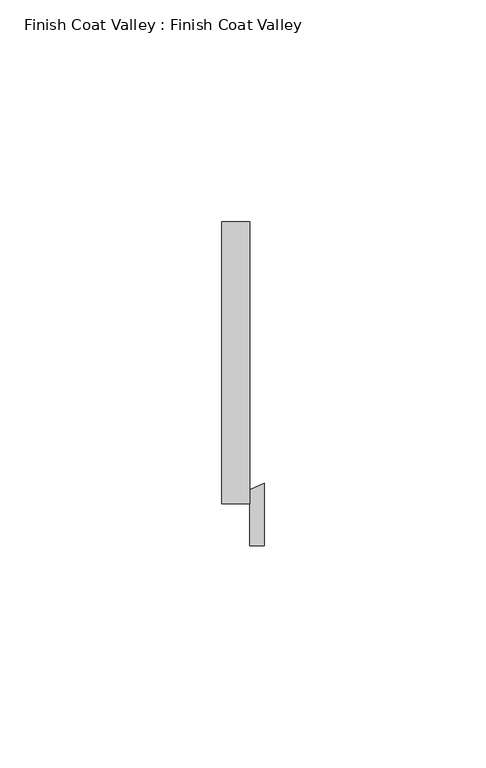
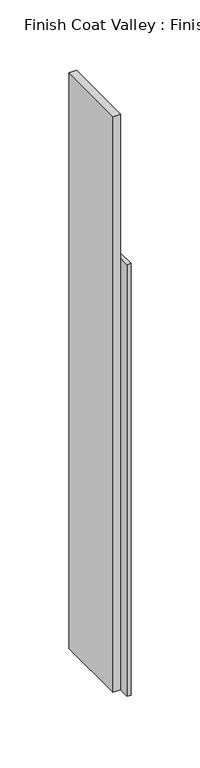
"""IFC4 building model written with IfcOpenShell, lengths in millimetres: proxy geometry, Finish Coat Valley : Finish Coat Valley."""

import ifcopenshell
import ifcopenshell.guid

model = None  # the IFC model being written
_history = None  # IfcOwnerHistory: only IFC2X3 demands one
_inside = {}  # id of a spatial element -> (the spatial element, [elements in it])
_under = {}  # id of a project, library or spatial element -> (it, [spatial elements below it])
_declared = {}  # id of a project -> (the project, [libraries it declares])
_typed = {}  # id of a type object -> (the type object, [elements of that type])
_made_of = {}  # id of a material, layer set ... -> (it, [elements and type objects made of it])


def new_model(schema):
    """Start an empty IFC model of exactly this schema.

    Asked for "IFC4X3", IfcOpenShell would pick the latest addendum, in which some entities
    have other attributes; the version numbers below select the first issue.
    IFC2X3 requires an IfcOwnerHistory on every rooted entity: one is made here for all.
    """
    global model, _history
    if schema == "IFC4X3":
        model = ifcopenshell.file(schema_version=(4, 3, 0, 0))
    else:
        model = ifcopenshell.file(schema=schema)
    _inside.clear()
    _under.clear()
    _declared.clear()
    _typed.clear()
    _made_of.clear()
    _history = None
    if model.schema == "IFC2X3":
        org = make("IfcOrganization", Name="unknown")
        user = make(
            "IfcPersonAndOrganization",
            ThePerson=make("IfcPerson", FamilyName="unknown"),
            TheOrganization=org,
        )
        app = make(
            "IfcApplication",
            ApplicationDeveloper=org,
            Version="unknown",
            ApplicationFullName="unknown",
            ApplicationIdentifier="unknown",
        )
        _history = make(
            "IfcOwnerHistory",
            OwningUser=user,
            OwningApplication=app,
            ChangeAction="ADDED",
            CreationDate=0,
        )
    return model


def make(cls, **values):
    """One entity of the class cls with the attributes given. An attribute that is None is left unset."""
    return model.create_entity(
        cls, **{name: value for name, value in values.items() if value is not None}
    )


def rooted(cls, **values):
    """An entity with a GlobalId (a new one), such as an element, a storey or a relation."""
    return make(cls, GlobalId=ifcopenshell.guid.new(), OwnerHistory=_history, **values)


def si_unit(unit_type, name, prefix=None):
    """IfcSIUnit, for example si_unit("LENGTHUNIT", "METRE", prefix="MILLI")."""
    return make("IfcSIUnit", UnitType=unit_type, Prefix=prefix, Name=name)


def assignment(units):
    """IfcUnitAssignment: the units of a project."""
    return None if units is None else make("IfcUnitAssignment", Units=units)


def point(xyz):
    """IfcCartesianPoint."""
    return None if xyz is None else make("IfcCartesianPoint", Coordinates=xyz)


def direction(xyz):
    """IfcDirection."""
    return None if xyz is None else make("IfcDirection", DirectionRatios=xyz)


def frame(location, z_axis=None, x_axis=None):
    """IfcAxis2Placement3D, a coordinate frame: its origin and axes. An axis left out is left unset."""
    return make(
        "IfcAxis2Placement3D",
        Location=point(location),
        Axis=direction(z_axis),
        RefDirection=direction(x_axis),
    )


def frame_2d(location, x_axis=None):
    """IfcAxis2Placement2D, a coordinate frame in the plane: its origin and x axis."""
    return make(
        "IfcAxis2Placement2D", Location=point(location), RefDirection=direction(x_axis)
    )


def origin():
    """The frame at (0, 0, 0) with its axes left unset."""
    return frame((0.0, 0.0, 0.0))


def origin_with_axes():
    """The frame at (0, 0, 0) with the z axis (0, 0, 1) and the x axis (1, 0, 0) written out."""
    return frame((0.0, 0.0, 0.0), z_axis=(0.0, 0.0, 1.0), x_axis=(1.0, 0.0, 0.0))


def place(relative_to, where):
    """IfcLocalPlacement: puts the frame where relative to a parent placement (None: the world)."""
    return make(
        "IfcLocalPlacement", PlacementRelTo=relative_to, RelativePlacement=where
    )


def context(
    kind, dimensions, precision=None, world=None, true_north=None, identifier=None
):
    """IfcGeometricRepresentationContext, for example the 3D "Model" context."""
    return make(
        "IfcGeometricRepresentationContext",
        ContextIdentifier=identifier,
        ContextType=kind,
        CoordinateSpaceDimension=dimensions,
        Precision=precision,
        WorldCoordinateSystem=world,
        TrueNorth=true_north,
    )


def project(units=None, contexts=None):
    """IfcProject with its units and contexts."""
    return rooted(
        "IfcProject",
        Name="project",
        RepresentationContexts=contexts,
        UnitsInContext=assignment(units),
    )


def spatial(cls, under=None, at=None, **own):
    """A site, building, storey or space (cls), placed at a placement, below another one or the project."""
    s = rooted(cls, ObjectPlacement=at, **own)
    if under is not None:
        _under.setdefault(under.id(), (under, []))[1].append(s)
    return s


def polyline(points):
    """IfcPolyline through the points."""
    return make("IfcPolyline", Points=[point(p) for p in points])


def circle_curve(where, radius):
    """IfcCircle in the frame where."""
    return make("IfcCircle", Position=where, Radius=radius)


def trimmed(basis, trim1, trim2, sense, master):
    """IfcTrimmedCurve: the piece of a basis curve between two trims."""
    return make(
        "IfcTrimmedCurve",
        BasisCurve=basis,
        Trim1=trim1,
        Trim2=trim2,
        SenseAgreement=sense,
        MasterRepresentation=master,
    )


def segment(curve, same_sense, transition):
    """IfcCompositeCurveSegment."""
    return make(
        "IfcCompositeCurveSegment",
        Transition=transition,
        SameSense=same_sense,
        ParentCurve=curve,
    )


def composite_curve(segments, self_intersect=None):
    """IfcCompositeCurve: segments joined end to end."""
    return make("IfcCompositeCurve", Segments=segments, SelfIntersect=self_intersect)


def outline(outer, holes=None, kind="AREA"):
    """IfcArbitraryClosedProfileDef: a profile drawn as a closed curve; with holes, ...WithVoids."""
    if holes is None:
        return make("IfcArbitraryClosedProfileDef", ProfileType=kind, OuterCurve=outer)
    return make(
        "IfcArbitraryProfileDefWithVoids",
        ProfileType=kind,
        OuterCurve=outer,
        InnerCurves=holes,
    )


def extrude(swept, where, along, depth):
    """IfcExtrudedAreaSolid: the profile swept, set in the frame where, extruded along a direction by depth."""
    return make(
        "IfcExtrudedAreaSolid",
        SweptArea=swept,
        Position=where,
        ExtrudedDirection=direction(along),
        Depth=depth,
    )


def shape(context_of_items, identifier, shape_type, items):
    """IfcShapeRepresentation: the items that make up one representation, for example the "Body"."""
    return make(
        "IfcShapeRepresentation",
        ContextOfItems=context_of_items,
        RepresentationIdentifier=identifier,
        RepresentationType=shape_type,
        Items=items,
    )


def source(mapping_origin, context_of_items, identifier, shape_type, items):
    """IfcRepresentationMap: a shape defined once, which mapped items show again and again."""
    return make(
        "IfcRepresentationMap",
        MappingOrigin=mapping_origin,
        MappedRepresentation=shape(context_of_items, identifier, shape_type, items),
    )


def transform(
    local_origin,
    x_axis=None,
    y_axis=None,
    z_axis=None,
    scale=None,
    scale2=None,
    scale3=None,
    uniform=True,
):
    """IfcCartesianTransformationOperator3D, or its non-uniform kind. x_axis, y_axis, z_axis: its Axis1, 2, 3."""
    if uniform:
        return make(
            "IfcCartesianTransformationOperator3D",
            Axis1=direction(x_axis),
            Axis2=direction(y_axis),
            LocalOrigin=point(local_origin),
            Scale=scale,
            Axis3=direction(z_axis),
        )
    return make(
        "IfcCartesianTransformationOperator3DnonUniform",
        Axis1=direction(x_axis),
        Axis2=direction(y_axis),
        LocalOrigin=point(local_origin),
        Scale=scale,
        Axis3=direction(z_axis),
        Scale2=scale2,
        Scale3=scale3,
    )


def mapped(mapping_source, mapping_target):
    """IfcMappedItem: shows the shape of a source again, moved by a transform."""
    return make(
        "IfcMappedItem", MappingSource=mapping_source, MappingTarget=mapping_target
    )


def made_of(thing, what):
    """Note that an element or type object is made of a material, layer set ...; save() writes the relation."""
    if what is not None:
        _made_of.setdefault(what.id(), (what, []))[1].append(thing)
    return thing


def element(
    cls,
    number,
    at=None,
    inside=None,
    cuts=None,
    type_object=None,
    material=None,
    context=None,
    identifier="Body",
    shape_type=None,
    held_by="IfcProductDefinitionShape",
    body=None,
    shapes=None,
    **own,
):
    """One element of the class cls, such as IfcWall. Its Tag is "e" and its number.

    at: its placement. inside: the storey or other place that contains it. cuts: it is an
    opening in that element (IfcRelVoidsElement). A single representation is given by context,
    identifier, shape_type and body (its items); several are given by shapes. held_by: the class
    of the entity that holds the representations. save() writes the other relations.
    """
    e = rooted(cls, Tag="e%d" % number, ObjectPlacement=at, **own)
    if body is not None:
        shapes = [shape(context, identifier, shape_type, body)]
    if shapes is not None:
        e.Representation = make(held_by, Representations=shapes)
    if inside is not None:
        _inside.setdefault(inside.id(), (inside, []))[1].append(e)
    if cuts is not None:
        rooted(
            "IfcRelVoidsElement", RelatingBuildingElement=cuts, RelatedOpeningElement=e
        )
    if type_object is not None:
        _typed.setdefault(type_object.id(), (type_object, []))[1].append(e)
    return made_of(e, material)


def aggregate(whole, parts):
    """IfcRelAggregates: a whole, such as a stair, and the parts it consists of."""
    return rooted("IfcRelAggregates", RelatingObject=whole, RelatedObjects=parts)


def save(model, path):
    """Write the relations noted so far, then the file.

    IfcRelAggregates (storeys below a building ...), IfcRelContainedInSpatialStructure (elements
    in a storey), IfcRelDefinesByType, IfcRelAssociatesMaterial and IfcRelDeclares: one each for
    every whole, place, type object, material and project.
    """
    for whole, parts in _under.values():
        aggregate(whole, parts)
    for where, things in _inside.values():
        rooted(
            "IfcRelContainedInSpatialStructure",
            RelatedElements=things,
            RelatingStructure=where,
        )
    for kind, things in _typed.values():
        rooted("IfcRelDefinesByType", RelatedObjects=things, RelatingType=kind)
    for what, things in _made_of.values():
        rooted("IfcRelAssociatesMaterial", RelatedObjects=things, RelatingMaterial=what)
    for by, libraries in _declared.values():
        rooted("IfcRelDeclares", RelatingContext=by, RelatedDefinitions=libraries)
    model.write(path)


def finish_coat_valley_finish_coat_valley_a092b3c2(model_context):
    return source(origin(), model_context, "Body", "SweptSolid", [
        extrude(outline(polyline([(26815.4039273, 611.7566297), (26815.4039273, 548.2566297), (26809.0539273, 548.2566297), (26809.0539273, 611.7566297), (26815.4039273, 611.7566297)])), origin_with_axes(), (0.0, 0.0, 1.0), 508.0),
        extrude(outline(composite_curve([segment(trimmed(circle_curve(frame_2d((26824.9289273, 534.9338457)), 19.05), [point((26815.4039273, 551.4316297))], [point((26818.5789273, 552.894358))], False, "CARTESIAN"), True, "CONTINUOUS"), segment(polyline([(26818.5789273, 552.894358), (26818.5789273, 538.7316297), (26815.4039273, 538.7316297), (26815.4039273, 551.4316297)]), True, "CONTINUOUS")], self_intersect=False)), origin_with_axes(), (0.0, 0.0, 1.0), 381.0),
    ])


if __name__ == "__main__":
    model = new_model("IFC4")
    model_context = context("Model", 3, world=origin())
    ifc_project = project(units=[si_unit("LENGTHUNIT", "METRE", prefix="MILLI")], contexts=[model_context])
    site = spatial("IfcSite", under=ifc_project)
    building = spatial("IfcBuilding", under=site)
    placement = place(None, origin())
    finish_coat_valley_finish_coat_valley_shape = finish_coat_valley_finish_coat_valley_a092b3c2(model_context)
    element("IfcBuildingElementProxy", 1, Name="Finish Coat Valley : Finish Coat Valley", ObjectType="Finish Coat Valley : Finish Coat Valley", at=placement, inside=building, context=model_context, shape_type="MappedRepresentation", body=[
        mapped(finish_coat_valley_finish_coat_valley_shape, transform((0.0, 0.0, 0.0), x_axis=(1.0, 0.0, 0.0), y_axis=(0.0, 1.0, 0.0), z_axis=(0.0, 0.0, 1.0))),
    ])
    save(model, "model.ifc")
